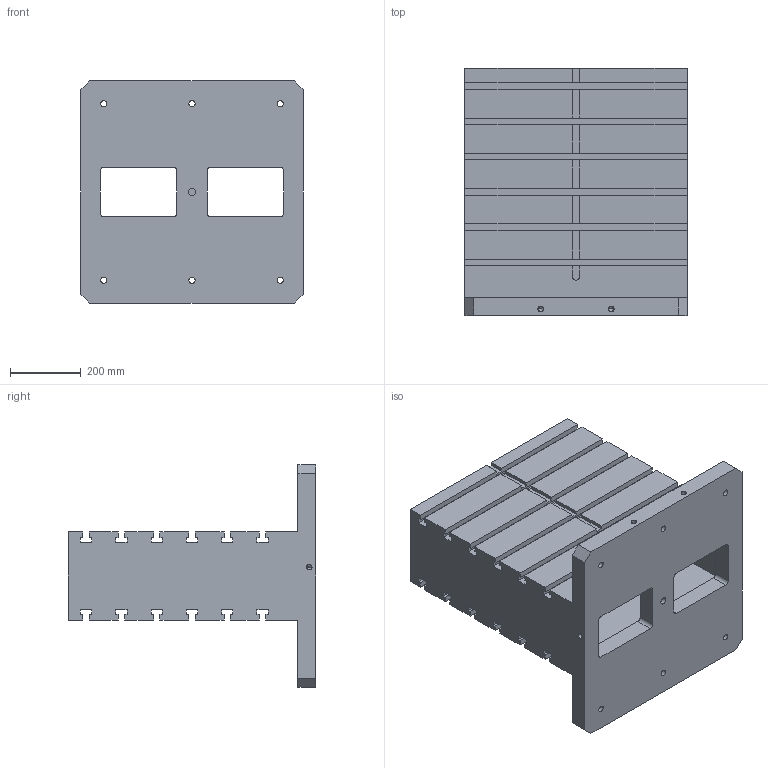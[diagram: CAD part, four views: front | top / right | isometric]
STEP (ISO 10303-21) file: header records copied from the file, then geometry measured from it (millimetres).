
FILE_DESCRIPTION((''),'2;1');
FILE_NAME('FG_WH_TOMB_RCT18NP004','2026-05-20T12:17:44',('Admin'),(''),'CREO PARAMETRIC BY PTC INC, 2025010','CREO PARAMETRIC BY PTC INC, 2025010','');
FILE_SCHEMA(('CONFIG_CONTROL_DESIGN'));
Length unit declared in the file: millimetre
Products named in the file (1): FG_WH_TOMB_RCT18NP004
Bounding box: 630 x 700 x 630 mm (x, y, z)
Volume: 59307812.2 mm3; surface area: 3715450.7 mm2
Topology: 1 solids, 5 shells, 284 faces, 806 edges, 535 vertices
Faces by surface type: plane 210, cylinder 68, cone 6
Entity records: 9207 total; most frequent: CARTESIAN_POINT 1620, ORIENTED_EDGE 1584, DIRECTION 1514, EDGE_CURVE 800, VECTOR 656, LINE 656, VERTEX_POINT 535, AXIS2_PLACEMENT_3D 429
